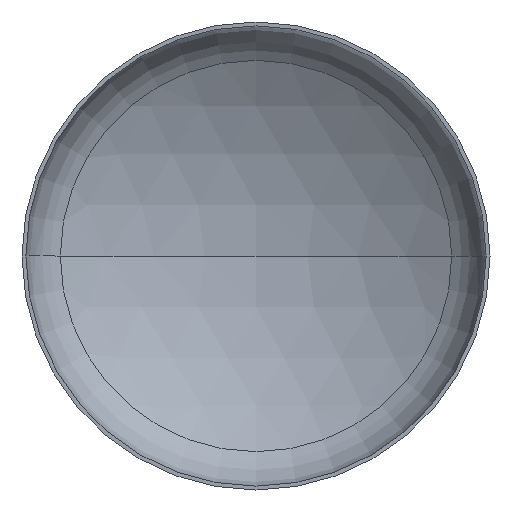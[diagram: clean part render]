
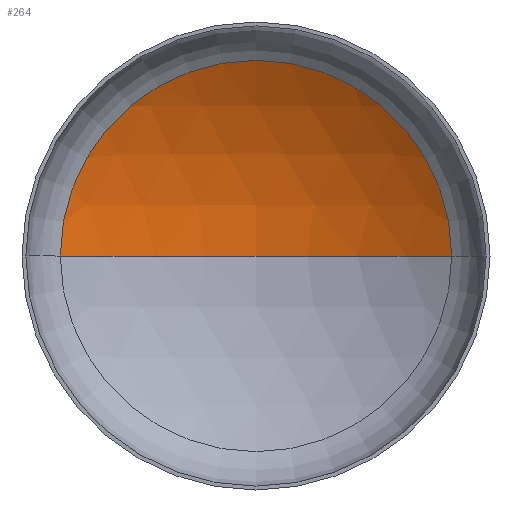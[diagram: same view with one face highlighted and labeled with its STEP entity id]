
A CAD part, front view. The second image highlights one B-rep face of the part: STEP entity #264.
In plain terms, the highlighted spherical face has radius 960 mm.
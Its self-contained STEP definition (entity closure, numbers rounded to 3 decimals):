
#9 = ORIENTED_EDGE ( 'NONE', *, *, #120, .T. ) ;
#12 = AXIS2_PLACEMENT_3D ( 'NONE', #153, #147, #174 ) ;
#15 = CIRCLE ( 'NONE', #26, 960. ) ;
#19 = EDGE_LOOP ( 'NONE', ( #25, #20, #9 ) ) ;
#20 = ORIENTED_EDGE ( 'NONE', *, *, #125, .T. ) ;
#21 = AXIS2_PLACEMENT_3D ( 'NONE', #271, #296, #295 ) ;
#25 = ORIENTED_EDGE ( 'NONE', *, *, #129, .F. ) ;
#26 = AXIS2_PLACEMENT_3D ( 'NONE', #231, #228, #230 ) ;
#30 = AXIS2_PLACEMENT_3D ( 'NONE', #258, #411, #203 ) ;
#72 = VERTEX_POINT ( 'NONE', #269 ) ;
#109 = VERTEX_POINT ( 'NONE', #217 ) ;
#120 = EDGE_CURVE ( 'NONE', #72, #154, #173, .T. ) ;
#125 = EDGE_CURVE ( 'NONE', #109, #72, #15, .T. ) ;
#129 = EDGE_CURVE ( 'NONE', #109, #154, #367, .T. ) ;
#147 = DIRECTION ( 'NONE',  ( 0., 0., -1. ) ) ;
#153 = CARTESIAN_POINT ( 'NONE',  ( 0., -630.757, 0. ) ) ;
#154 = VERTEX_POINT ( 'NONE', #195 ) ;
#161 = SPHERICAL_SURFACE ( 'NONE', #12, 960. ) ;
#173 = CIRCLE ( 'NONE', #30, 501.677 ) ;
#174 = DIRECTION ( 'NONE',  ( -1., 0., 0. ) ) ;
#195 = CARTESIAN_POINT ( 'NONE',  ( -501.677, 187.729, 0. ) ) ;
#203 = DIRECTION ( 'NONE',  ( 1., 0., 0. ) ) ;
#217 = CARTESIAN_POINT ( 'NONE',  ( 0., 329.243, 0. ) ) ;
#228 = DIRECTION ( 'NONE',  ( 0., 0., -1. ) ) ;
#230 = DIRECTION ( 'NONE',  ( -1., 0., 0. ) ) ;
#231 = CARTESIAN_POINT ( 'NONE',  ( 0., -630.757, 0. ) ) ;
#258 = CARTESIAN_POINT ( 'NONE',  ( 0., 187.729, 0. ) ) ;
#264 = ADVANCED_FACE ( 'NONE', ( #294 ), #161, .F. ) ;
#269 = CARTESIAN_POINT ( 'NONE',  ( 501.677, 187.729, 0. ) ) ;
#271 = CARTESIAN_POINT ( 'NONE',  ( 0., -630.757, 0. ) ) ;
#294 = FACE_OUTER_BOUND ( 'NONE', #19, .T. ) ;
#295 = DIRECTION ( 'NONE',  ( 1., 0., 0. ) ) ;
#296 = DIRECTION ( 'NONE',  ( 0., 0., 1. ) ) ;
#367 = CIRCLE ( 'NONE', #21, 960. ) ;
#411 = DIRECTION ( 'NONE',  ( 0., -1., 0. ) ) ;
